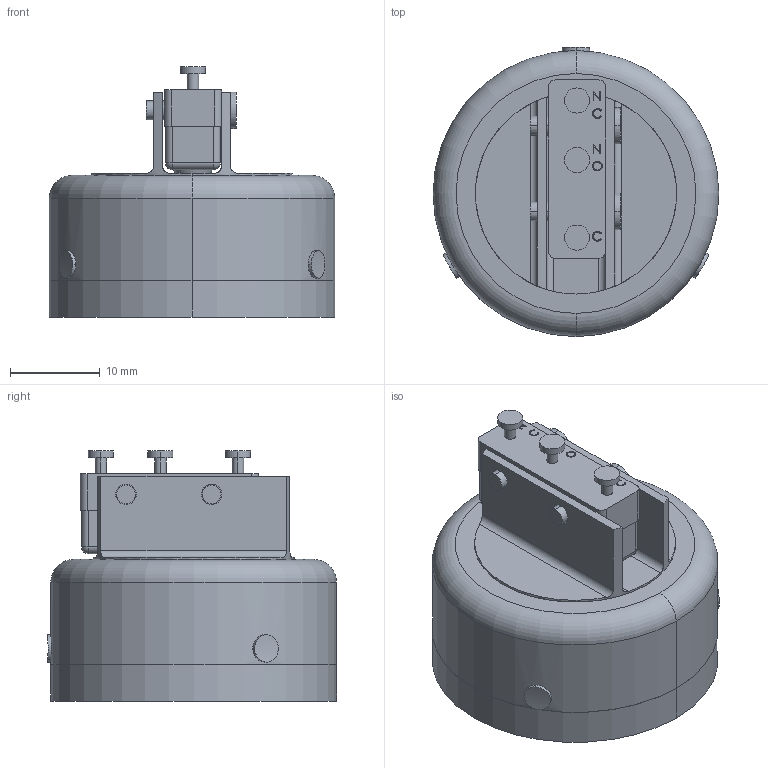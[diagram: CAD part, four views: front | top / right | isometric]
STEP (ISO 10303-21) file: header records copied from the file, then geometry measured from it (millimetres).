
FILE_DESCRIPTION (( 'STEP AP214' ), '1' );
FILE_NAME ('A37C-TYPE.STEP', '2008-01-14T13:13:12', ( 'Authorized User' ), ( 'Precision Sensors' ), 'SwSTEP 2.0', 'SolidWorks 2006303', '' );
FILE_SCHEMA (( 'AUTOMOTIVE_DESIGN' ));
Length unit declared in the file: inch
Products named in the file (1): A37C-TYPE
Bounding box: 31.78 x 32.14 x 27.81 mm (x, y, z)
Volume: 13836.8 mm3; surface area: 4863.3 mm2
Topology: 1 solids, 1 shells, 199 faces, 480 edges, 301 vertices
Faces by surface type: plane 77, cylinder 76, bspline 26, cone 14, sphere 4, torus 2
Entity records: 7823 total; most frequent: CARTESIAN_POINT 3273, ORIENTED_EDGE 940, DIRECTION 902, EDGE_CURVE 470, AXIS2_PLACEMENT_3D 330, VERTEX_POINT 301, VECTOR 242, LINE 242
